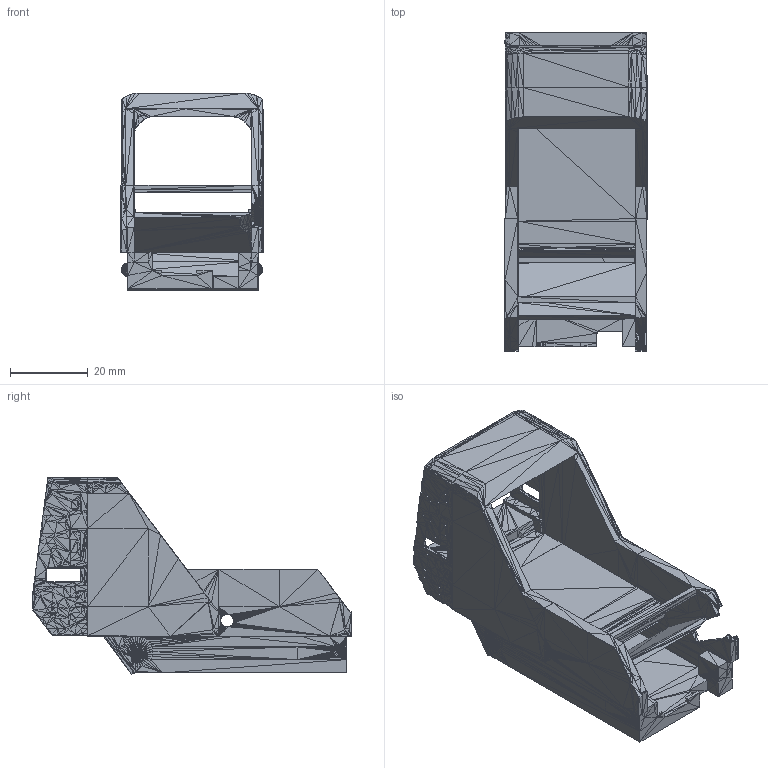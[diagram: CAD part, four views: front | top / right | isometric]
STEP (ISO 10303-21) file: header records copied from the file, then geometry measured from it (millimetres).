
FILE_DESCRIPTION(('FreeCAD Model'),'2;1');
FILE_NAME('Open CASCADE Shape Model','2025-03-06T12:17:26',('Author'),( ''),'Open CASCADE STEP processor 7.8','FreeCAD','Unknown');
FILE_SCHEMA(('AUTOMOTIVE_DESIGN { 1 0 10303 214 1 1 1 1 }'));
Products named in the file (1): FOSSToritisMainBod002 (Solid)
Bounding box: 36.52 x 81.73 x 50.8 mm (x, y, z)
Volume: 29559.5 mm3; surface area: 22866.5 mm2
Topology: 1 solids, 2 shells, 12476 faces, 18697 edges, 6202 vertices
Faces by surface type: plane 12476
Entity records: 243155 total; most frequent: DIRECTION 43651, ORIENTED_EDGE 37428, CARTESIAN_POINT 37376, EDGE_CURVE 18697, LINE 18697, VECTOR 18697, AXIS2_PLACEMENT_3D 12477, ADVANCED_FACE 12476
